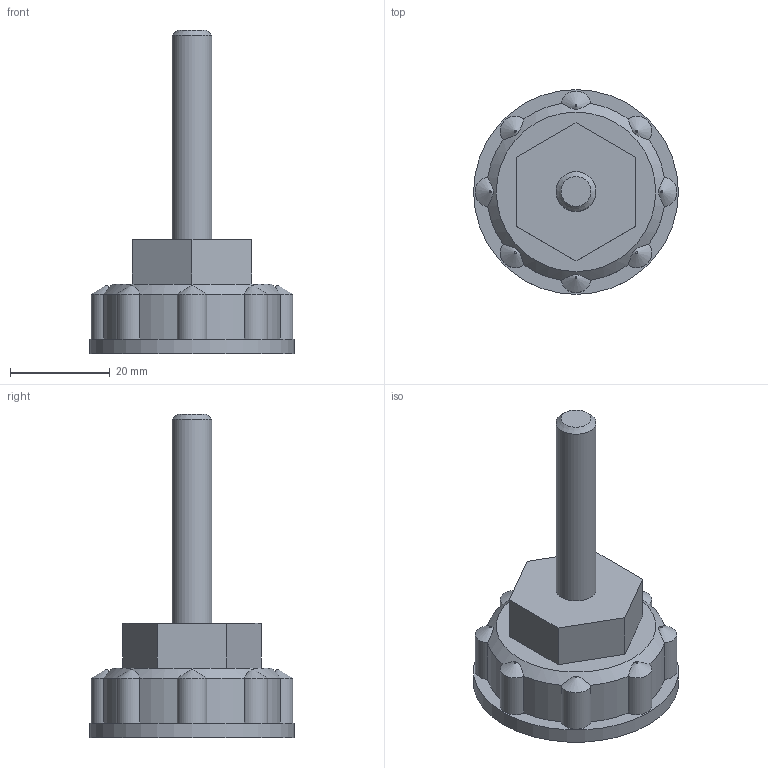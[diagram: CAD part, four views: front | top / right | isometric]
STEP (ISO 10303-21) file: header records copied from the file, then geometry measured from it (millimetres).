
FILE_DESCRIPTION( ('This file contains a STEP AP42 implementation' ,'as created by ZW3D STEP Interface translator.') ,'2;1' );
FILE_NAME( 'SR 40.23.60.stp' ,'26 812.13 758', (''), ('ZWCAD Software Co.'), 'Version 1.0', 'ZW3D to STEP translator', '' );
FILE_SCHEMA(('AP242_MANAGED_MODEL_BASED_3D_ENGINEERING_MIM_LF { 1 0 10303 442 1 1 4 }'));
Length unit declared in the file: millimetre
Products named in the file (1): 0
Bounding box: 41.1 x 41.1 x 65 mm (x, y, z)
Volume: 20524.1 mm3; surface area: 7821.3 mm2
Topology: 2 solids, 2 shells, 66 faces, 151 edges, 95 vertices
Faces by surface type: plane 36, cylinder 19, cone 11
Full cylindrical faces by diameter (mm): 8 x2, 41.1 x1
Entity records: 1988 total; most frequent: CARTESIAN_POINT 402, DIRECTION 318, ORIENTED_EDGE 302, EDGE_CURVE 151, AXIS2_PLACEMENT_3D 117, VERTEX_POINT 95, VECTOR 84, LINE 84
